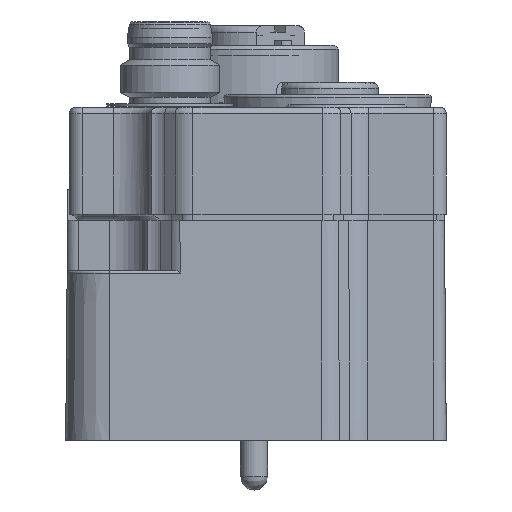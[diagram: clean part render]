
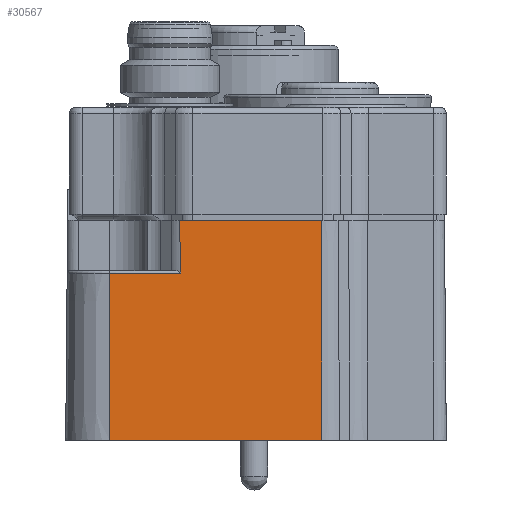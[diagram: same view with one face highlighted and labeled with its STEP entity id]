
A CAD part, front view. The second image highlights one B-rep face of the part: STEP entity #30567.
In plain terms, the highlighted planar face has unit normal (0, -1, 0.009).
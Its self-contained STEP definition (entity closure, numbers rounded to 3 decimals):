
#26243=CARTESIAN_POINT('',(-0.188,0.153,5.811));
#26244=VERTEX_POINT('',#26243);
#26252=CARTESIAN_POINT('',(11.134,0.153,5.811));
#26253=VERTEX_POINT('',#26252);
#26254=CARTESIAN_POINT('',(11.134,0.153,5.811));
#26255=DIRECTION('',(-1.0,0.0,0.0));
#26256=VECTOR('',#26255,11.322);
#26257=LINE('',#26254,#26256);
#26258=EDGE_CURVE('',#26253,#26244,#26257,.T.);
#26959=CARTESIAN_POINT('',(11.134,0.,-11.689));
#26960=VERTEX_POINT('',#26959);
#26961=CARTESIAN_POINT('',(11.134,0.,-11.689));
#26962=DIRECTION('',(0.0,0.009,1.));
#26963=VECTOR('',#26962,17.501);
#26964=LINE('',#26961,#26963);
#26965=EDGE_CURVE('',#26960,#26253,#26964,.T.);
#27386=CARTESIAN_POINT('',(-5.75,0.,-11.689));
#27387=VERTEX_POINT('',#27386);
#27388=CARTESIAN_POINT('',(11.134,0.,-11.689));
#27389=DIRECTION('',(-1.0,0.0,0.0));
#27390=VECTOR('',#27389,16.884);
#27391=LINE('',#27388,#27390);
#27392=EDGE_CURVE('',#26960,#27387,#27391,.T.);
#27981=CARTESIAN_POINT('',(-0.093,0.116,1.613));
#27982=VERTEX_POINT('',#27981);
#27996=CARTESIAN_POINT('',(-0.098,0.118,1.811));
#27997=VERTEX_POINT('',#27996);
#27998=CARTESIAN_POINT('',(-0.093,0.116,1.613));
#27999=CARTESIAN_POINT('',(-0.095,0.117,1.712));
#28000=CARTESIAN_POINT('',(-0.098,0.118,1.811));
#28008=(BOUNDED_CURVE()B_SPLINE_CURVE(2,(#27998,#27999,#28000),.UNSPECIFIED.,.F.,.U.)B_SPLINE_CURVE_WITH_KNOTS((3,3),(0.26,0.28),.UNSPECIFIED.)CURVE()GEOMETRIC_REPRESENTATION_ITEM()RATIONAL_B_SPLINE_CURVE((1.,1.,1.))REPRESENTATION_ITEM(''));
#28009=EDGE_CURVE('',#27982,#27997,#28008,.T.);
#28011=CARTESIAN_POINT('',(-0.188,0.153,5.811));
#28012=CARTESIAN_POINT('',(-0.143,0.134,3.686));
#28013=CARTESIAN_POINT('',(-0.098,0.118,1.811));
#28021=(BOUNDED_CURVE()B_SPLINE_CURVE(2,(#28011,#28012,#28013),.UNSPECIFIED.,.F.,.U.)B_SPLINE_CURVE_WITH_KNOTS((3,3),(0.0,0.4),.UNSPECIFIED.)CURVE()GEOMETRIC_REPRESENTATION_ITEM()RATIONAL_B_SPLINE_CURVE((1.0,1.,1.0))REPRESENTATION_ITEM(''));
#28022=EDGE_CURVE('',#26244,#27997,#28021,.T.);
#30528=CARTESIAN_POINT('',(-5.75,0.116,1.613));
#30529=VERTEX_POINT('',#30528);
#30539=CARTESIAN_POINT('',(-5.75,0.,-11.689));
#30540=DIRECTION('',(0.0,0.009,1.));
#30541=VECTOR('',#30540,13.302);
#30542=LINE('',#30539,#30541);
#30543=EDGE_CURVE('',#27387,#30529,#30542,.T.);
#30548=CARTESIAN_POINT('',(11.134,0.,-11.689));
#30549=DIRECTION('',(0.,-1.,0.009));
#30550=DIRECTION('',(1.0,0.0,0.0));
#30551=AXIS2_PLACEMENT_3D('',#30548,#30549,#30550);
#30552=PLANE('',#30551);
#30553=ORIENTED_EDGE('',*,*,#28009,.F.);
#30554=CARTESIAN_POINT('',(-5.75,0.116,1.613));
#30555=DIRECTION('',(1.0,0.0,0.0));
#30556=VECTOR('',#30555,5.657);
#30557=LINE('',#30554,#30556);
#30558=EDGE_CURVE('',#30529,#27982,#30557,.T.);
#30559=ORIENTED_EDGE('',*,*,#30558,.F.);
#30560=ORIENTED_EDGE('',*,*,#30543,.F.);
#30561=ORIENTED_EDGE('',*,*,#27392,.F.);
#30562=ORIENTED_EDGE('',*,*,#26965,.T.);
#30563=ORIENTED_EDGE('',*,*,#26258,.T.);
#30564=ORIENTED_EDGE('',*,*,#28022,.T.);
#30565=EDGE_LOOP('',(#30553,#30559,#30560,#30561,#30562,#30563,#30564));
#30566=FACE_OUTER_BOUND('',#30565,.T.);
#30567=ADVANCED_FACE('',(#30566),#30552,.T.);
